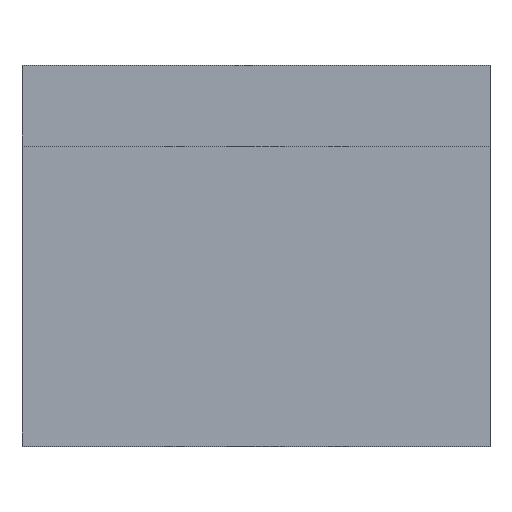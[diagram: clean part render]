
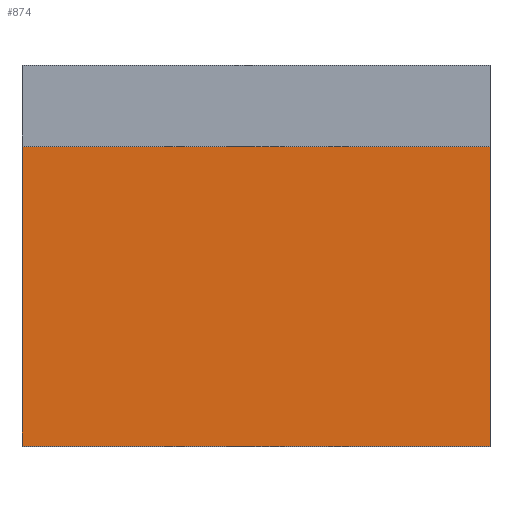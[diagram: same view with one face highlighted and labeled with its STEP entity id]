
A CAD part, top view. The second image highlights one B-rep face of the part: STEP entity #874.
In plain terms, the highlighted planar face has unit normal (0, 0, 1).
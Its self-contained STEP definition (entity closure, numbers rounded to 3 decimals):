
#14 = ORIENTED_EDGE ( 'NONE', *, *, #391, .F. ) ;
#20 = CARTESIAN_POINT ( 'NONE',  ( 0., 55., 0. ) ) ;
#94 = PLANE ( 'NONE',  #307 ) ;
#144 = DIRECTION ( 'NONE',  ( 1., 0., 0. ) ) ;
#151 = VECTOR ( 'NONE', #519, 1000. ) ;
#203 = CARTESIAN_POINT ( 'NONE',  ( 86., 0., 0. ) ) ;
#206 = CARTESIAN_POINT ( 'NONE',  ( 0., 55., 0. ) ) ;
#211 = CARTESIAN_POINT ( 'NONE',  ( 86., 55., 0. ) ) ;
#216 = VERTEX_POINT ( 'NONE', #364 ) ;
#292 = LINE ( 'NONE', #834, #885 ) ;
#302 = DIRECTION ( 'NONE',  ( 0., 0., -1. ) ) ;
#307 = AXIS2_PLACEMENT_3D ( 'NONE', #724, #302, #583 ) ;
#315 = ORIENTED_EDGE ( 'NONE', *, *, #873, .F. ) ;
#328 = CARTESIAN_POINT ( 'NONE',  ( 86., 10., 0. ) ) ;
#331 = ORIENTED_EDGE ( 'NONE', *, *, #338, .T. ) ;
#338 = EDGE_CURVE ( 'NONE', #678, #216, #629, .T. ) ;
#364 = CARTESIAN_POINT ( 'NONE',  ( 0., 0., 0. ) ) ;
#379 = DIRECTION ( 'NONE',  ( 0., -1., 0. ) ) ;
#391 = EDGE_CURVE ( 'NONE', #759, #506, #510, .T. ) ;
#442 = VECTOR ( 'NONE', #379, 1000. ) ;
#464 = DIRECTION ( 'NONE',  ( 0., -1., 0. ) ) ;
#506 = VERTEX_POINT ( 'NONE', #203 ) ;
#510 = LINE ( 'NONE', #328, #733 ) ;
#519 = DIRECTION ( 'NONE',  ( 1., 0., 0. ) ) ;
#572 = LINE ( 'NONE', #20, #151 ) ;
#583 = DIRECTION ( 'NONE',  ( -1., 0., 0. ) ) ;
#629 = LINE ( 'NONE', #734, #442 ) ;
#666 = EDGE_LOOP ( 'NONE', ( #727, #14, #315, #331 ) ) ;
#678 = VERTEX_POINT ( 'NONE', #206 ) ;
#705 = EDGE_CURVE ( 'NONE', #216, #506, #292, .T. ) ;
#722 = FACE_OUTER_BOUND ( 'NONE', #666, .T. ) ;
#724 = CARTESIAN_POINT ( 'NONE',  ( 0., 10., 0. ) ) ;
#727 = ORIENTED_EDGE ( 'NONE', *, *, #705, .T. ) ;
#733 = VECTOR ( 'NONE', #464, 1000. ) ;
#734 = CARTESIAN_POINT ( 'NONE',  ( 0., 10., 0. ) ) ;
#759 = VERTEX_POINT ( 'NONE', #211 ) ;
#834 = CARTESIAN_POINT ( 'NONE',  ( 0., 0., 0. ) ) ;
#873 = EDGE_CURVE ( 'NONE', #678, #759, #572, .T. ) ;
#874 = ADVANCED_FACE ( 'NONE', ( #722 ), #94, .F. ) ;
#885 = VECTOR ( 'NONE', #144, 1000. ) ;
